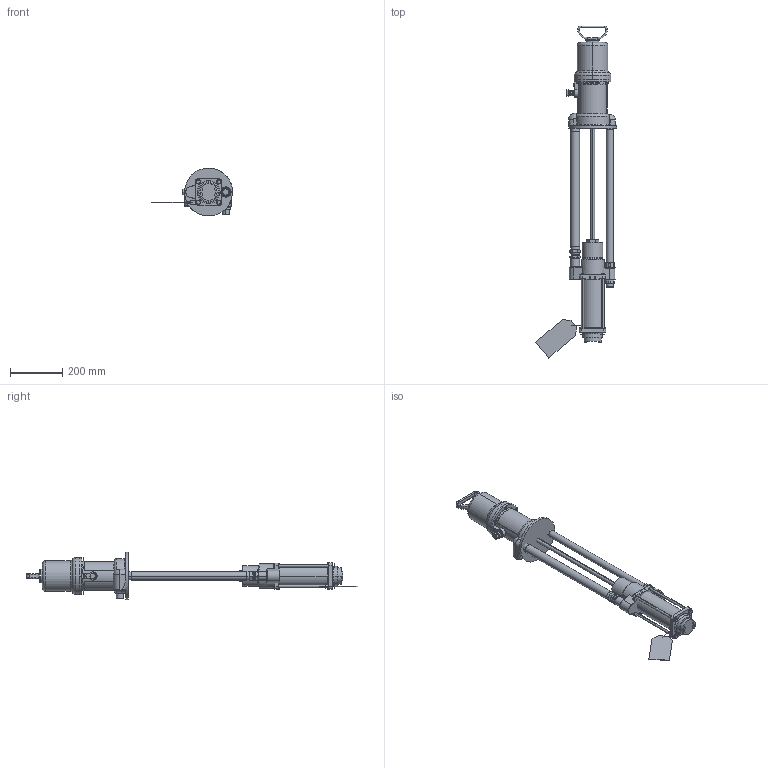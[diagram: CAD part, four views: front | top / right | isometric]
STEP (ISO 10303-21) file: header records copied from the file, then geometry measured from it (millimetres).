
FILE_DESCRIPTION((''),'2;1');
FILE_NAME('223185-EN-R_PRT','2022-10-27T14:08:20',('qusrh3'),(''),'CREO PARAMETRIC BY PTC INC, 2021072','CREO PARAMETRIC BY PTC INC, 2021072','');
FILE_SCHEMA(('CONFIG_CONTROL_DESIGN'));
Length unit declared in the file: inch
Products named in the file (1): 223185-EN-R_PRT
Bounding box: 311.56 x 1276.53 x 183.84 mm (x, y, z)
Surface area: 641634.3 mm2 (no closed solid volume)
Topology: 0 solids, 62 shells, 480 faces, 1522 edges, 1042 vertices
Faces by surface type: plane 167, cylinder 144, cone 127, torus 29, bspline 13
Entity records: 18572 total; most frequent: CARTESIAN_POINT 5768, DIRECTION 2671, ORIENTED_EDGE 2410, EDGE_CURVE 1520, VERTEX_POINT 1042, AXIS2_PLACEMENT_3D 1021, VECTOR 629, LINE 629
